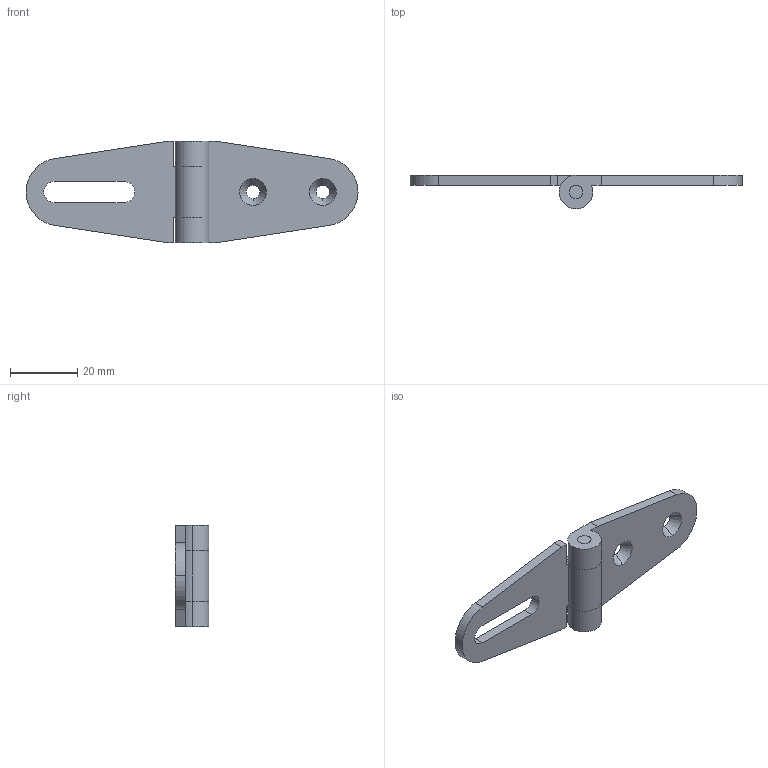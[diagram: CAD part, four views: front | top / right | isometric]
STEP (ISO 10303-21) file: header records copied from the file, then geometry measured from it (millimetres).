
FILE_DESCRIPTION((''),'2;1');
FILE_NAME('6028.01.stp','2015-07-17T16:02:29',(''),(''),'Mechanical Desktop 2006','Mechanical Desktop 2006',', , ');
FILE_SCHEMA(('CONFIG_CONTROL_DESIGN'));
Length unit declared in the file: millimetre
Products named in the file (1): 6028.01.23
Bounding box: 98.5 x 10 x 30 mm (x, y, z)
Volume: 8003.9 mm3; surface area: 6428.1 mm2
Topology: 2 solids, 2 shells, 52 faces, 138 edges, 92 vertices
Faces by surface type: cylinder 25, plane 23, cone 4
Entity records: 1753 total; most frequent: DIRECTION 302, CARTESIAN_POINT 283, ORIENTED_EDGE 276, EDGE_CURVE 138, AXIS2_PLACEMENT_3D 111, VERTEX_POINT 92, VECTOR 80, LINE 80
